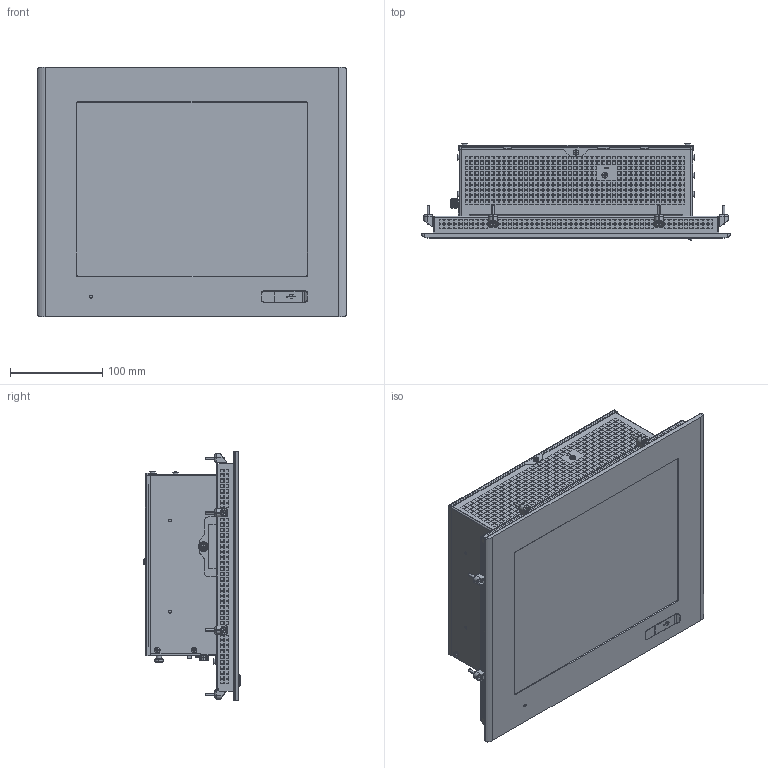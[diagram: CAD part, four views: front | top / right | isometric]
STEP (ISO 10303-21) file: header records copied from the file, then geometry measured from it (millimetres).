
FILE_DESCRIPTION((''),'2;1');
FILE_NAME('C6E22-Panel_121_RES_S1','2017-02-23T',('manpal'),(''),'PRO/ENGINEER BY PARAMETRIC TECHNOLOGY CORPORATION, 2013410','PRO/ENGINEER BY PARAMETRIC TECHNOLOGY CORPORATION, 2013410','');
FILE_SCHEMA(('AUTOMOTIVE_DESIGN { 1 0 10303 214 1 1 1 1 }'));
Products named in the file (1): C6E22-Panel_121_RES_S1_
Bounding box: 335 x 105.82 x 270 mm (x, y, z)
Surface area: 511719.8 mm2 (no closed solid volume)
Topology: 0 solids, 268 shells, 3612 faces, 18840 edges, 15322 vertices
Faces by surface type: plane 2753, cylinder 532, cone 145, bspline 115, sphere 41, torus 24, extrusion 2
Entity records: 209749 total; most frequent: CARTESIAN_POINT 52073, DIRECTION 27077, ORIENTED_EDGE 25500, EDGE_CURVE 18820, VECTOR 15425, LINE 15423, VERTEX_POINT 15322, AXIS2_PLACEMENT_3D 5826
